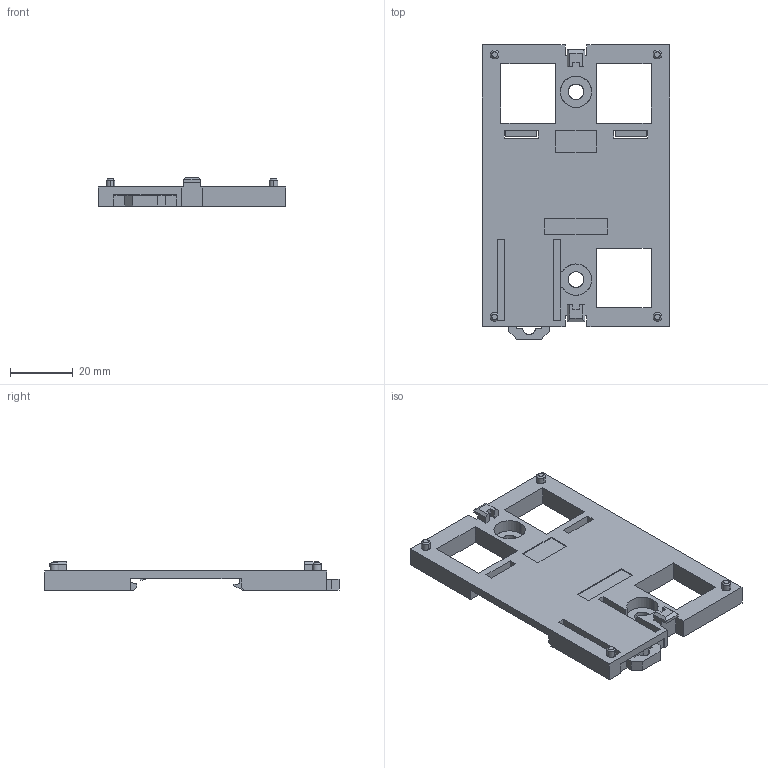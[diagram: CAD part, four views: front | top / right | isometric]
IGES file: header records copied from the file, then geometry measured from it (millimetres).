
Start section: SolidWorks IGES file using analytic representation for surfaces
Global section: file name: C:\catalog\afp0804.IGS; native system: SolidWorks 2010; preprocessor: SolidWorks 2010; author: E184722; date: 150703.110729; units: millimetre
Bounding box: 60 x 94 x 9.2 mm (x, y, z)
Surface area: 14266 mm2 (no closed solid volume)
Topology: 0 solids, 0 shells, 195 faces, 1767 edges, 1767 vertices
Faces by surface type: bspline 159, revolution 36
